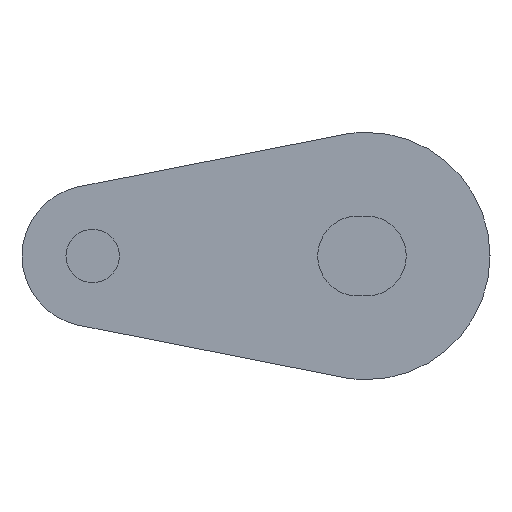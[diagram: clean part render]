
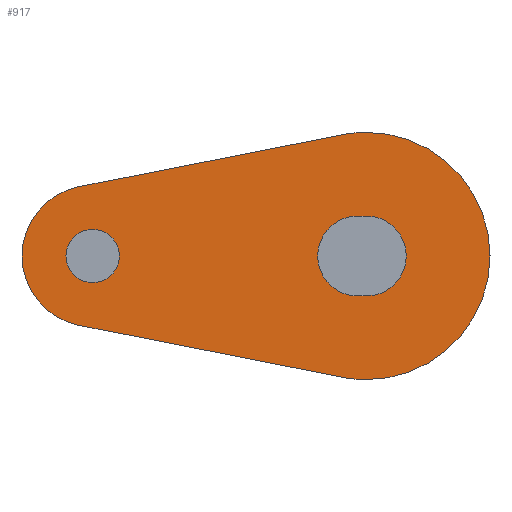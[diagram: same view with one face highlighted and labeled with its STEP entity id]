
A CAD part, left-side view. The second image highlights one B-rep face of the part: STEP entity #917.
In plain terms, the highlighted planar face has unit normal (-1, 0, 0).
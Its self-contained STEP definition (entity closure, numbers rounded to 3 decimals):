
#1 = AXIS2_PLACEMENT_3D ( 'NONE', #474, #476, #477 ) ;
#2 = AXIS2_PLACEMENT_3D ( 'NONE', #506, #304, #354 ) ;
#45 = EDGE_CURVE ( 'NONE', #436, #542, #638, .T. ) ;
#46 = AXIS2_PLACEMENT_3D ( 'NONE', #606, #602, #603 ) ;
#50 = EDGE_CURVE ( 'NONE', #546, #361, #633, .T. ) ;
#51 = EDGE_CURVE ( 'NONE', #534, #436, #639, .T. ) ;
#63 = EDGE_CURVE ( 'NONE', #539, #251, #683, .T. ) ;
#64 = AXIS2_PLACEMENT_3D ( 'NONE', #240, #211, #587 ) ;
#65 = EDGE_CURVE ( 'NONE', #251, #523, #742, .T. ) ;
#70 = EDGE_CURVE ( 'NONE', #361, #534, #882, .T. ) ;
#74 = EDGE_CURVE ( 'NONE', #542, #224, #1018, .T. ) ;
#87 = AXIS2_PLACEMENT_3D ( 'NONE', #611, #599, #235 ) ;
#91 = EDGE_CURVE ( 'NONE', #521, #181, #1029, .T. ) ;
#109 = EDGE_CURVE ( 'NONE', #523, #335, #1037, .T. ) ;
#134 = AXIS2_PLACEMENT_3D ( 'NONE', #584, #581, #580 ) ;
#138 = AXIS2_PLACEMENT_3D ( 'NONE', #496, #488, #490 ) ;
#143 = EDGE_CURVE ( 'NONE', #224, #546, #1047, .T. ) ;
#146 = AXIS2_PLACEMENT_3D ( 'NONE', #330, #607, #608 ) ;
#148 = AXIS2_PLACEMENT_3D ( 'NONE', #461, #524, #527 ) ;
#151 = EDGE_CURVE ( 'NONE', #181, #521, #1048, .T. ) ;
#154 = EDGE_CURVE ( 'NONE', #335, #539, #1053, .T. ) ;
#181 = VERTEX_POINT ( 'NONE', #299 ) ;
#208 = DIRECTION ( 'NONE',  ( 0., -0.981, 0.194 ) ) ;
#211 = DIRECTION ( 'NONE',  ( 1., 0., 0. ) ) ;
#213 = CARTESIAN_POINT ( 'NONE',  ( -107.5, 16.274, 3.924 ) ) ;
#224 = VERTEX_POINT ( 'NONE', #309 ) ;
#235 = DIRECTION ( 'NONE',  ( 0., 0., -1. ) ) ;
#240 = CARTESIAN_POINT ( 'NONE',  ( -107.5, 15.5, 0. ) ) ;
#251 = VERTEX_POINT ( 'NONE', #298 ) ;
#265 = CARTESIAN_POINT ( 'NONE',  ( -107.5, 0., 2.26 ) ) ;
#283 = CARTESIAN_POINT ( 'NONE',  ( -107.5, 0., -2.26 ) ) ;
#298 = CARTESIAN_POINT ( 'NONE',  ( -107.5, 0.5, -2.26 ) ) ;
#299 = CARTESIAN_POINT ( 'NONE',  ( -107.5, 15.5, -1.51 ) ) ;
#304 = DIRECTION ( 'NONE',  ( 1., 0., 0. ) ) ;
#305 = DIRECTION ( 'NONE',  ( 0., 0.981, 0.194 ) ) ;
#309 = CARTESIAN_POINT ( 'NONE',  ( -107.5, 1.355, 6.868 ) ) ;
#311 = CARTESIAN_POINT ( 'NONE',  ( -107.5, 0., -7. ) ) ;
#316 = CARTESIAN_POINT ( 'NONE',  ( -107.5, 16.274, 3.924 ) ) ;
#319 = CARTESIAN_POINT ( 'NONE',  ( -107.5, 0.5, 2.26 ) ) ;
#321 = CARTESIAN_POINT ( 'NONE',  ( -107.5, 1.355, -6.868 ) ) ;
#322 = CARTESIAN_POINT ( 'NONE',  ( -107.5, 15.5, 1.51 ) ) ;
#330 = CARTESIAN_POINT ( 'NONE',  ( -107.5, 0., 0. ) ) ;
#335 = VERTEX_POINT ( 'NONE', #265 ) ;
#354 = DIRECTION ( 'NONE',  ( 0., 0., -1. ) ) ;
#361 = VERTEX_POINT ( 'NONE', #311 ) ;
#436 = VERTEX_POINT ( 'NONE', #470 ) ;
#461 = CARTESIAN_POINT ( 'NONE',  ( -107.5, 15.5, 0. ) ) ;
#470 = CARTESIAN_POINT ( 'NONE',  ( -107.5, 16.274, -3.924 ) ) ;
#474 = CARTESIAN_POINT ( 'NONE',  ( -107.5, 0.5, 0. ) ) ;
#475 = DIRECTION ( 'NONE',  ( 0., 1., 0. ) ) ;
#476 = DIRECTION ( 'NONE',  ( 1., 0., 0. ) ) ;
#477 = DIRECTION ( 'NONE',  ( 0., 0., -1. ) ) ;
#479 = CARTESIAN_POINT ( 'NONE',  ( -107.5, 0.5, 2.26 ) ) ;
#482 = CARTESIAN_POINT ( 'NONE',  ( -107.5, 0.5, -2.26 ) ) ;
#488 = DIRECTION ( 'NONE',  ( 1., 0., 0. ) ) ;
#490 = DIRECTION ( 'NONE',  ( 0., 0., -1. ) ) ;
#491 = CARTESIAN_POINT ( 'NONE',  ( -107.5, 1.355, -6.868 ) ) ;
#496 = CARTESIAN_POINT ( 'NONE',  ( -107.5, 0., 0. ) ) ;
#506 = CARTESIAN_POINT ( 'NONE',  ( -107.5, 0., 0. ) ) ;
#521 = VERTEX_POINT ( 'NONE', #322 ) ;
#523 = VERTEX_POINT ( 'NONE', #319 ) ;
#524 = DIRECTION ( 'NONE',  ( 1., 0., 0. ) ) ;
#527 = DIRECTION ( 'NONE',  ( 0., 0., -1. ) ) ;
#534 = VERTEX_POINT ( 'NONE', #321 ) ;
#539 = VERTEX_POINT ( 'NONE', #283 ) ;
#542 = VERTEX_POINT ( 'NONE', #316 ) ;
#546 = VERTEX_POINT ( 'NONE', #556 ) ;
#556 = CARTESIAN_POINT ( 'NONE',  ( -107.5, 0., 7. ) ) ;
#578 = PLANE ( 'NONE',  #134 ) ;
#580 = DIRECTION ( 'NONE',  ( 0., 0., -1. ) ) ;
#581 = DIRECTION ( 'NONE',  ( -1., 0., 0. ) ) ;
#584 = CARTESIAN_POINT ( 'NONE',  ( -107.5, 15.5, 0. ) ) ;
#587 = DIRECTION ( 'NONE',  ( 0., 0., -1. ) ) ;
#594 = DIRECTION ( 'NONE',  ( 0., -1., 0. ) ) ;
#599 = DIRECTION ( 'NONE',  ( 1., 0., 0. ) ) ;
#602 = DIRECTION ( 'NONE',  ( 1., 0., 0. ) ) ;
#603 = DIRECTION ( 'NONE',  ( 0., 0., -1. ) ) ;
#606 = CARTESIAN_POINT ( 'NONE',  ( -107.5, 15.5, 0. ) ) ;
#607 = DIRECTION ( 'NONE',  ( 1., 0., 0. ) ) ;
#608 = DIRECTION ( 'NONE',  ( 0., 0., -1. ) ) ;
#611 = CARTESIAN_POINT ( 'NONE',  ( -107.5, 0., 0. ) ) ;
#633 = CIRCLE ( 'NONE', #138, 7. ) ;
#638 = CIRCLE ( 'NONE', #148, 4. ) ;
#639 = LINE ( 'NONE', #491, #648 ) ;
#648 = VECTOR ( 'NONE', #305, 1000. ) ;
#683 = LINE ( 'NONE', #482, #689 ) ;
#689 = VECTOR ( 'NONE', #475, 1000. ) ;
#721 = ORIENTED_EDGE ( 'NONE', *, *, #45, .F. ) ;
#722 = ORIENTED_EDGE ( 'NONE', *, *, #151, .T. ) ;
#742 = CIRCLE ( 'NONE', #1, 2.26 ) ;
#756 = ORIENTED_EDGE ( 'NONE', *, *, #63, .T. ) ;
#801 = ORIENTED_EDGE ( 'NONE', *, *, #91, .T. ) ;
#803 = ORIENTED_EDGE ( 'NONE', *, *, #51, .F. ) ;
#804 = ORIENTED_EDGE ( 'NONE', *, *, #50, .F. ) ;
#805 = ORIENTED_EDGE ( 'NONE', *, *, #65, .T. ) ;
#829 = ORIENTED_EDGE ( 'NONE', *, *, #154, .T. ) ;
#833 = ORIENTED_EDGE ( 'NONE', *, *, #74, .F. ) ;
#834 = ORIENTED_EDGE ( 'NONE', *, *, #143, .F. ) ;
#836 = ORIENTED_EDGE ( 'NONE', *, *, #109, .T. ) ;
#841 = ORIENTED_EDGE ( 'NONE', *, *, #70, .F. ) ;
#849 = EDGE_LOOP ( 'NONE', ( #805, #836, #829, #756 ) ) ;
#861 = EDGE_LOOP ( 'NONE', ( #722, #801 ) ) ;
#882 = CIRCLE ( 'NONE', #2, 7. ) ;
#893 = EDGE_LOOP ( 'NONE', ( #721, #803, #841, #804, #834, #833 ) ) ;
#917 = ADVANCED_FACE ( 'NONE', ( #961, #963, #967 ), #578, .T. ) ;
#961 = FACE_BOUND ( 'NONE', #849, .T. ) ;
#963 = FACE_BOUND ( 'NONE', #861, .T. ) ;
#967 = FACE_OUTER_BOUND ( 'NONE', #893, .T. ) ;
#1018 = LINE ( 'NONE', #213, #1019 ) ;
#1019 = VECTOR ( 'NONE', #208, 1000. ) ;
#1029 = CIRCLE ( 'NONE', #64, 1.51 ) ;
#1035 = VECTOR ( 'NONE', #594, 1000. ) ;
#1037 = LINE ( 'NONE', #479, #1035 ) ;
#1047 = CIRCLE ( 'NONE', #146, 7. ) ;
#1048 = CIRCLE ( 'NONE', #46, 1.51 ) ;
#1053 = CIRCLE ( 'NONE', #87, 2.26 ) ;
